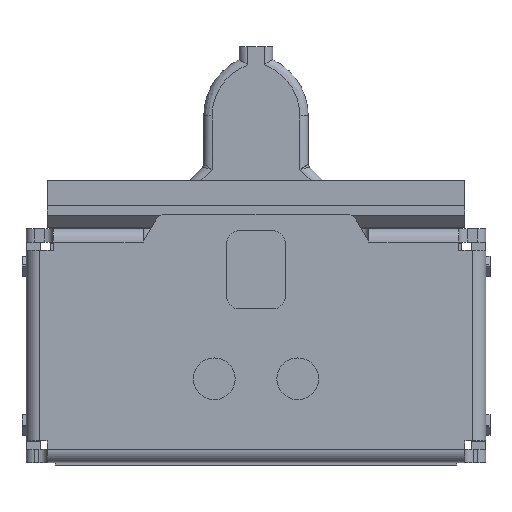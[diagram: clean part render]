
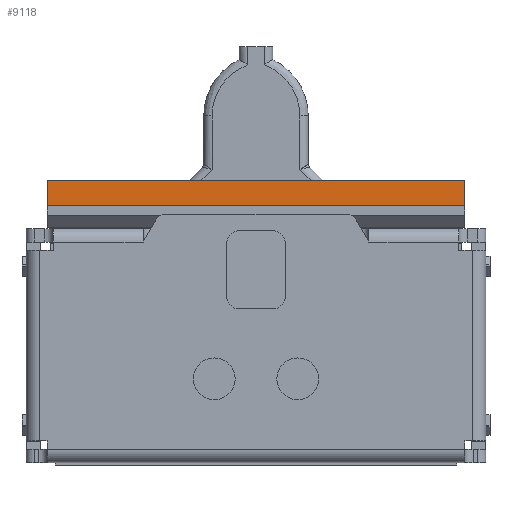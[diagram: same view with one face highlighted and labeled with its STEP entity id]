
A CAD part, top view. The second image highlights one B-rep face of the part: STEP entity #9118.
In plain terms, the highlighted planar face has unit normal (0, 0, 1).
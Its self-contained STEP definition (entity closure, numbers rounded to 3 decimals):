
#9081 = ORIENTED_EDGE ( 'NONE', *, *, #9094, .F. ) ;
#9088 = VERTEX_POINT ( 'NONE', #13395 ) ;
#9089 = EDGE_CURVE ( 'NONE', #9090, #9100, #13394, .T. ) ;
#9090 = VERTEX_POINT ( 'NONE', #13390 ) ;
#9091 = EDGE_CURVE ( 'NONE', #9088, #9099, #13389, .T. ) ;
#9093 = ORIENTED_EDGE ( 'NONE', *, *, #9110, .F. ) ;
#9094 = EDGE_CURVE ( 'NONE', #9099, #9100, #13384, .T. ) ;
#9099 = VERTEX_POINT ( 'NONE', #13371 ) ;
#9100 = VERTEX_POINT ( 'NONE', #13370 ) ;
#9106 = ORIENTED_EDGE ( 'NONE', *, *, #9091, .F. ) ;
#9110 = EDGE_CURVE ( 'NONE', #9090, #9088, #13454, .T. ) ;
#9111 = ORIENTED_EDGE ( 'NONE', *, *, #9089, .T. ) ;
#9118 = ADVANCED_FACE ( 'NONE', ( #13464 ), #13500, .F. ) ;
#12618 = EDGE_LOOP ( 'NONE', ( #9081, #9106, #9093, #9111 ) ) ;
#13370 = CARTESIAN_POINT ( 'NONE',  ( 5., 3.35, -1.72 ) ) ;
#13371 = CARTESIAN_POINT ( 'NONE',  ( 5., 3.95, -1.72 ) ) ;
#13381 = DIRECTION ( 'NONE',  ( 0., -1., 0. ) ) ;
#13382 = VECTOR ( 'NONE', #13381, 1000. ) ;
#13383 = CARTESIAN_POINT ( 'NONE',  ( 5., 3.95, -1.72 ) ) ;
#13384 = LINE ( 'NONE', #13383, #13382 ) ;
#13386 = DIRECTION ( 'NONE',  ( 1., 0., 0. ) ) ;
#13387 = VECTOR ( 'NONE', #13386, 1000. ) ;
#13388 = CARTESIAN_POINT ( 'NONE',  ( 5., 3.95, -1.72 ) ) ;
#13389 = LINE ( 'NONE', #13388, #13387 ) ;
#13390 = CARTESIAN_POINT ( 'NONE',  ( -5., 3.35, -1.72 ) ) ;
#13391 = DIRECTION ( 'NONE',  ( 1., 0., 0. ) ) ;
#13392 = VECTOR ( 'NONE', #13391, 1000. ) ;
#13393 = CARTESIAN_POINT ( 'NONE',  ( 5., 3.35, -1.72 ) ) ;
#13394 = LINE ( 'NONE', #13393, #13392 ) ;
#13395 = CARTESIAN_POINT ( 'NONE',  ( -5., 3.95, -1.72 ) ) ;
#13451 = DIRECTION ( 'NONE',  ( 0., 1., 0. ) ) ;
#13452 = VECTOR ( 'NONE', #13451, 1000. ) ;
#13453 = CARTESIAN_POINT ( 'NONE',  ( -5., 3.95, -1.72 ) ) ;
#13454 = LINE ( 'NONE', #13453, #13452 ) ;
#13464 = FACE_OUTER_BOUND ( 'NONE', #12618, .T. ) ;
#13496 = DIRECTION ( 'NONE',  ( -1., 0., 0. ) ) ;
#13497 = DIRECTION ( 'NONE',  ( 0., 0., -1. ) ) ;
#13498 = CARTESIAN_POINT ( 'NONE',  ( 5., 3.95, -1.72 ) ) ;
#13499 = AXIS2_PLACEMENT_3D ( 'NONE', #13498, #13497, #13496 ) ;
#13500 = PLANE ( 'NONE',  #13499 ) ;
